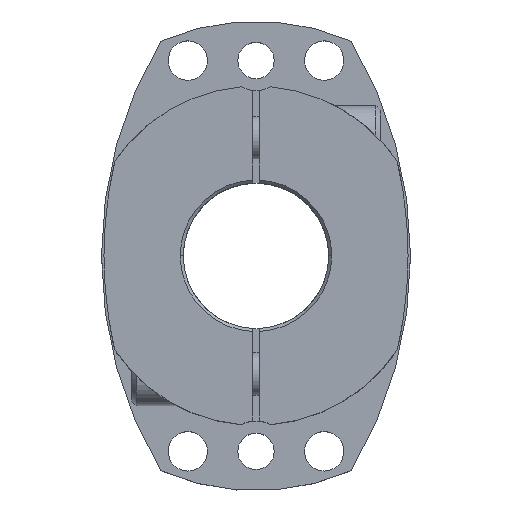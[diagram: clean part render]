
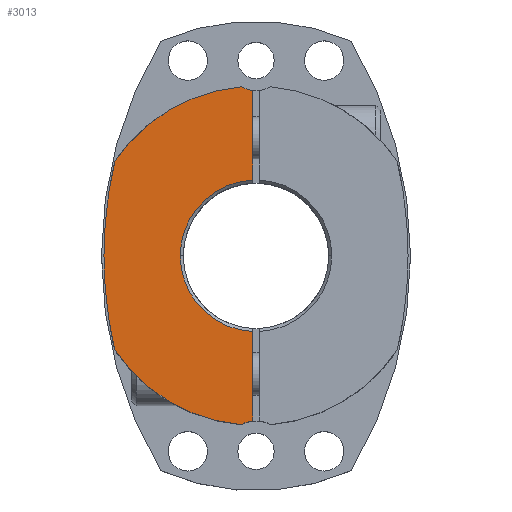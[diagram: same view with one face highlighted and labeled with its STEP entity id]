
A CAD part, top view. The second image highlights one B-rep face of the part: STEP entity #3013.
In plain terms, the highlighted planar face has unit normal (0, 0, 1).
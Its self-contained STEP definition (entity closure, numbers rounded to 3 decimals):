
#414=CARTESIAN_POINT('',(-25.,0.,42.5));
#415=VERTEX_POINT('',#414);
#422=CARTESIAN_POINT('',(-1.,-24.98,42.5));
#423=VERTEX_POINT('',#422);
#424=CARTESIAN_POINT('',(0.,0.,42.5));
#425=DIRECTION('',(0.0,0.0,1.0));
#426=DIRECTION('',(1.0,0.0,0.0));
#427=AXIS2_PLACEMENT_3D('',#424,#425,#426);
#428=CIRCLE('',#427,25.0);
#429=EDGE_CURVE('',#415,#423,#428,.T.);
#912=CARTESIAN_POINT('',(-50.2,0.,42.5));
#913=VERTEX_POINT('',#912);
#922=CARTESIAN_POINT('',(-46.66,30.965,42.5));
#923=VERTEX_POINT('',#922);
#924=CARTESIAN_POINT('',(87.,0.,42.5));
#925=DIRECTION('',(0.0,0.0,-1.0));
#926=DIRECTION('',(1.0,0.0,0.0));
#927=AXIS2_PLACEMENT_3D('',#924,#925,#926);
#928=CIRCLE('',#927,137.2);
#929=EDGE_CURVE('',#913,#923,#928,.T.);
#2026=CARTESIAN_POINT('',(-46.66,-30.965,42.5));
#2027=VERTEX_POINT('',#2026);
#2034=CARTESIAN_POINT('',(87.,0.,42.5));
#2035=DIRECTION('',(0.0,0.0,-1.0));
#2036=DIRECTION('',(1.0,0.0,0.0));
#2037=AXIS2_PLACEMENT_3D('',#2034,#2035,#2036);
#2038=CIRCLE('',#2037,137.2);
#2039=EDGE_CURVE('',#2027,#913,#2038,.T.);
#2637=CARTESIAN_POINT('',(-1.,54.55,42.5));
#2638=VERTEX_POINT('',#2637);
#2645=CARTESIAN_POINT('',(-1.,24.98,42.5));
#2646=VERTEX_POINT('',#2645);
#2647=CARTESIAN_POINT('',(-1.,24.98,42.5));
#2648=DIRECTION('',(0.0,1.0,0.0));
#2649=VECTOR('',#2648,29.57);
#2650=LINE('',#2647,#2649);
#2651=EDGE_CURVE('',#2646,#2638,#2650,.T.);
#2739=CARTESIAN_POINT('',(-1.,-54.55,42.5));
#2740=VERTEX_POINT('',#2739);
#2741=CARTESIAN_POINT('',(-1.,-54.55,42.5));
#2742=DIRECTION('',(0.0,1.0,0.0));
#2743=VECTOR('',#2742,29.57);
#2744=LINE('',#2741,#2743);
#2745=EDGE_CURVE('',#2740,#423,#2744,.T.);
#2826=CARTESIAN_POINT('',(-4.904,-55.785,42.5));
#2827=VERTEX_POINT('',#2826);
#2828=CARTESIAN_POINT('',(0.,-64.5,42.5));
#2829=DIRECTION('',(0.0,0.0,-1.0));
#2830=DIRECTION('',(1.0,0.0,0.0));
#2831=AXIS2_PLACEMENT_3D('',#2828,#2829,#2830);
#2832=CIRCLE('',#2831,10.0);
#2833=EDGE_CURVE('',#2827,#2740,#2832,.T.);
#2970=CARTESIAN_POINT('',(0.,0.,42.5));
#2971=DIRECTION('',(0.0,0.0,1.0));
#2972=DIRECTION('',(1.0,0.0,0.0));
#2973=AXIS2_PLACEMENT_3D('',#2970,#2971,#2972);
#2974=PLANE('',#2973);
#2975=ORIENTED_EDGE('',*,*,#2745,.T.);
#2976=ORIENTED_EDGE('',*,*,#429,.F.);
#2977=CARTESIAN_POINT('',(0.,0.,42.5));
#2978=DIRECTION('',(0.0,0.0,1.0));
#2979=DIRECTION('',(1.0,0.0,0.0));
#2980=AXIS2_PLACEMENT_3D('',#2977,#2978,#2979);
#2981=CIRCLE('',#2980,25.0);
#2982=EDGE_CURVE('',#2646,#415,#2981,.T.);
#2983=ORIENTED_EDGE('',*,*,#2982,.F.);
#2984=ORIENTED_EDGE('',*,*,#2651,.T.);
#2985=CARTESIAN_POINT('',(-4.904,55.785,42.5));
#2986=VERTEX_POINT('',#2985);
#2987=CARTESIAN_POINT('',(0.,64.5,42.5));
#2988=DIRECTION('',(0.0,0.0,-1.0));
#2989=DIRECTION('',(1.0,0.0,0.0));
#2990=AXIS2_PLACEMENT_3D('',#2987,#2988,#2989);
#2991=CIRCLE('',#2990,10.0);
#2992=EDGE_CURVE('',#2638,#2986,#2991,.T.);
#2993=ORIENTED_EDGE('',*,*,#2992,.T.);
#2994=CARTESIAN_POINT('',(0.,0.,42.5));
#2995=DIRECTION('',(0.0,0.0,-1.0));
#2996=DIRECTION('',(1.0,0.0,0.0));
#2997=AXIS2_PLACEMENT_3D('',#2994,#2995,#2996);
#2998=CIRCLE('',#2997,56.);
#2999=EDGE_CURVE('',#923,#2986,#2998,.T.);
#3000=ORIENTED_EDGE('',*,*,#2999,.F.);
#3001=ORIENTED_EDGE('',*,*,#929,.F.);
#3002=ORIENTED_EDGE('',*,*,#2039,.F.);
#3003=CARTESIAN_POINT('',(0.,0.0,42.5));
#3004=DIRECTION('',(0.0,0.0,-1.0));
#3005=DIRECTION('',(1.0,0.0,0.0));
#3006=AXIS2_PLACEMENT_3D('',#3003,#3004,#3005);
#3007=CIRCLE('',#3006,56.);
#3008=EDGE_CURVE('',#2827,#2027,#3007,.T.);
#3009=ORIENTED_EDGE('',*,*,#3008,.F.);
#3010=ORIENTED_EDGE('',*,*,#2833,.T.);
#3011=EDGE_LOOP('',(#2975,#2976,#2983,#2984,#2993,#3000,#3001,#3002,#3009,#3010));
#3012=FACE_OUTER_BOUND('',#3011,.T.);
#3013=ADVANCED_FACE('',(#3012),#2974,.T.);
